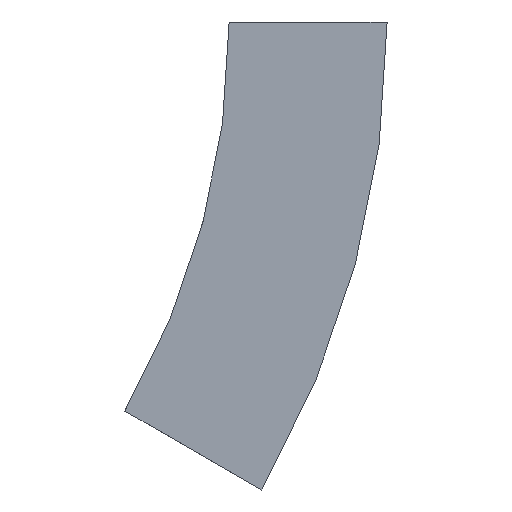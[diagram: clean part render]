
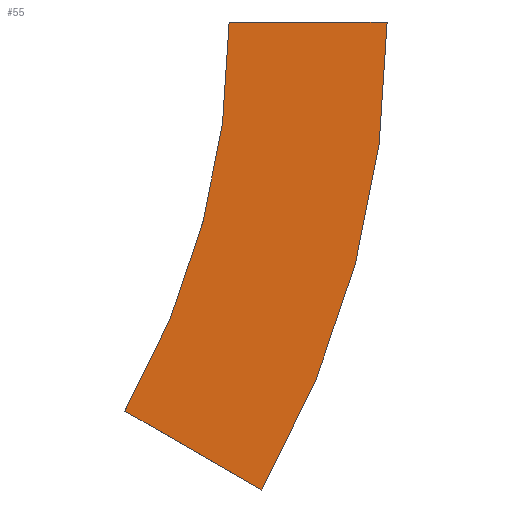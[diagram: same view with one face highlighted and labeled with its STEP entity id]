
A CAD part, left-side view. The second image highlights one B-rep face of the part: STEP entity #55.
In plain terms, the highlighted planar face has unit normal (-1, 0, 0).
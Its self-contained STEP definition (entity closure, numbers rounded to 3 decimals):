
#2 = DIRECTION ( 'NONE',  ( 1., 0., 0. ) ) ;
#9 = CARTESIAN_POINT ( 'NONE',  ( -78.5, -20., 0. ) ) ;
#12 = DIRECTION ( 'NONE',  ( -1., 0., 0. ) ) ;
#23 = ORIENTED_EDGE ( 'NONE', *, *, #385, .F. ) ;
#24 = EDGE_CURVE ( 'NONE', #85, #413, #550, .T. ) ;
#55 = ADVANCED_FACE ( 'NONE', ( #243 ), #195, .T. ) ;
#85 = VERTEX_POINT ( 'NONE', #197 ) ;
#114 = CARTESIAN_POINT ( 'NONE',  ( -78.5, 98.5, 0. ) ) ;
#139 = ORIENTED_EDGE ( 'NONE', *, *, #289, .F. ) ;
#141 = EDGE_CURVE ( 'NONE', #361, #184, #178, .T. ) ;
#147 = DIRECTION ( 'NONE',  ( -1., 0., 0. ) ) ;
#178 = CIRCLE ( 'NONE', #532, 118.5 ) ;
#184 = VERTEX_POINT ( 'NONE', #484 ) ;
#195 = PLANE ( 'NONE',  #319 ) ;
#197 = CARTESIAN_POINT ( 'NONE',  ( -78.5, 13.196, -49.25 ) ) ;
#243 = FACE_OUTER_BOUND ( 'NONE', #338, .T. ) ;
#248 = CARTESIAN_POINT ( 'NONE',  ( -78.5, 0., 0. ) ) ;
#286 = LINE ( 'NONE', #248, #449 ) ;
#289 = EDGE_CURVE ( 'NONE', #184, #85, #503, .T. ) ;
#319 = AXIS2_PLACEMENT_3D ( 'NONE', #379, #12, #426 ) ;
#330 = DIRECTION ( 'NONE',  ( 0., -1., 0. ) ) ;
#338 = EDGE_LOOP ( 'NONE', ( #139, #464, #23, #519 ) ) ;
#361 = VERTEX_POINT ( 'NONE', #9 ) ;
#365 = VECTOR ( 'NONE', #509, 1000. ) ;
#372 = CARTESIAN_POINT ( 'NONE',  ( -78.5, -4.124, -59.25 ) ) ;
#379 = CARTESIAN_POINT ( 'NONE',  ( -78.5, 98.5, 0. ) ) ;
#385 = EDGE_CURVE ( 'NONE', #413, #361, #286, .T. ) ;
#386 = CARTESIAN_POINT ( 'NONE',  ( -78.5, 0., 0. ) ) ;
#387 = AXIS2_PLACEMENT_3D ( 'NONE', #558, #147, #566 ) ;
#413 = VERTEX_POINT ( 'NONE', #386 ) ;
#426 = DIRECTION ( 'NONE',  ( 0., 0., 1. ) ) ;
#449 = VECTOR ( 'NONE', #330, 1000. ) ;
#464 = ORIENTED_EDGE ( 'NONE', *, *, #141, .F. ) ;
#484 = CARTESIAN_POINT ( 'NONE',  ( -78.5, -4.124, -59.25 ) ) ;
#503 = LINE ( 'NONE', #372, #365 ) ;
#509 = DIRECTION ( 'NONE',  ( 0., 0.866, 0.5 ) ) ;
#519 = ORIENTED_EDGE ( 'NONE', *, *, #24, .F. ) ;
#532 = AXIS2_PLACEMENT_3D ( 'NONE', #114, #2, #560 ) ;
#550 = CIRCLE ( 'NONE', #387, 98.5 ) ;
#558 = CARTESIAN_POINT ( 'NONE',  ( -78.5, 98.5, 0. ) ) ;
#560 = DIRECTION ( 'NONE',  ( 0., 0., -1. ) ) ;
#566 = DIRECTION ( 'NONE',  ( 0., 0., 1. ) ) ;
